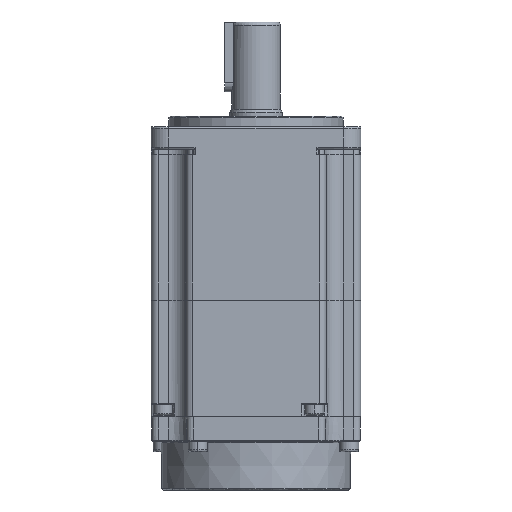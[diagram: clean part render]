
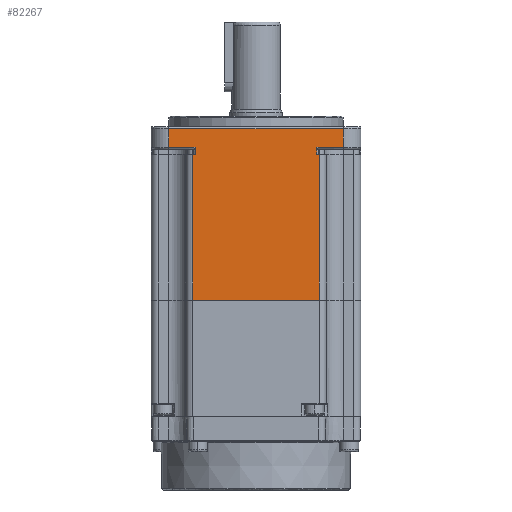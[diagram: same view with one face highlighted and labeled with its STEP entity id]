
A CAD part, front view. The second image highlights one B-rep face of the part: STEP entity #82267.
In plain terms, the highlighted planar face has unit normal (0, -1, 0).
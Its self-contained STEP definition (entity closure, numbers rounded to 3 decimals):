
#672 = EDGE_CURVE ( 'NONE', #30054, #5555, #87360, .T. ) ;
#1834 = VERTEX_POINT ( 'NONE', #33586 ) ;
#3203 = VECTOR ( 'NONE', #62945, 1000. ) ;
#4831 = VERTEX_POINT ( 'NONE', #35375 ) ;
#5555 = VERTEX_POINT ( 'NONE', #63554 ) ;
#6065 = LINE ( 'NONE', #89003, #20520 ) ;
#7981 = EDGE_CURVE ( 'NONE', #1834, #64529, #59865, .T. ) ;
#8506 = DIRECTION ( 'NONE',  ( 0., 0., -1. ) ) ;
#8824 = VERTEX_POINT ( 'NONE', #43203 ) ;
#9734 = ORIENTED_EDGE ( 'NONE', *, *, #22946, .T. ) ;
#10064 = VECTOR ( 'NONE', #49734, 1000. ) ;
#10823 = ORIENTED_EDGE ( 'NONE', *, *, #89529, .T. ) ;
#11792 = ORIENTED_EDGE ( 'NONE', *, *, #63777, .T. ) ;
#12023 = DIRECTION ( 'NONE',  ( 0., 0., -1. ) ) ;
#12599 = VERTEX_POINT ( 'NONE', #36615 ) ;
#12809 = DIRECTION ( 'NONE',  ( -1., 0., 0. ) ) ;
#13998 = CARTESIAN_POINT ( 'NONE',  ( 17.616, -39.646, 93.7 ) ) ;
#14286 = DIRECTION ( 'NONE',  ( 1., 0., 0. ) ) ;
#15681 = LINE ( 'NONE', #71082, #32322 ) ;
#16796 = ORIENTED_EDGE ( 'NONE', *, *, #56898, .T. ) ;
#17320 = ORIENTED_EDGE ( 'NONE', *, *, #48878, .T. ) ;
#17633 = VERTEX_POINT ( 'NONE', #48016 ) ;
#20520 = VECTOR ( 'NONE', #81813, 1000. ) ;
#22946 = EDGE_CURVE ( 'NONE', #17633, #49718, #56442, .T. ) ;
#25752 = LINE ( 'NONE', #65525, #80212 ) ;
#26354 = EDGE_CURVE ( 'NONE', #57824, #1834, #6065, .T. ) ;
#27933 = CARTESIAN_POINT ( 'NONE',  ( -18.584, -39.646, 51.9 ) ) ;
#28681 = CARTESIAN_POINT ( 'NONE',  ( -30.584, -39.646, 93.7 ) ) ;
#28968 = LINE ( 'NONE', #42082, #62326 ) ;
#30054 = VERTEX_POINT ( 'NONE', #30245 ) ;
#30245 = CARTESIAN_POINT ( 'NONE',  ( -25.584, -39.646, 95.7 ) ) ;
#32322 = VECTOR ( 'NONE', #14286, 1000. ) ;
#33586 = CARTESIAN_POINT ( 'NONE',  ( 17.016, -39.646, 93.7 ) ) ;
#33932 = ORIENTED_EDGE ( 'NONE', *, *, #36020, .T. ) ;
#35375 = CARTESIAN_POINT ( 'NONE',  ( -17.984, -39.646, 93.7 ) ) ;
#36020 = EDGE_CURVE ( 'NONE', #5555, #4831, #59561, .T. ) ;
#36615 = CARTESIAN_POINT ( 'NONE',  ( -18.584, -39.646, 93.7 ) ) ;
#37190 = CARTESIAN_POINT ( 'NONE',  ( -17.984, -39.646, 95.7 ) ) ;
#37197 = DIRECTION ( 'NONE',  ( 0., 0., 1. ) ) ;
#37490 = ORIENTED_EDGE ( 'NONE', *, *, #26354, .T. ) ;
#38463 = DIRECTION ( 'NONE',  ( 0., 0., 1. ) ) ;
#38914 = VECTOR ( 'NONE', #12023, 1000. ) ;
#39020 = ORIENTED_EDGE ( 'NONE', *, *, #672, .T. ) ;
#39163 = EDGE_CURVE ( 'NONE', #8824, #66699, #59720, .T. ) ;
#40661 = VECTOR ( 'NONE', #8506, 1000. ) ;
#42082 = CARTESIAN_POINT ( 'NONE',  ( -30.584, -39.646, 101.1 ) ) ;
#43203 = CARTESIAN_POINT ( 'NONE',  ( 17.616, -39.646, 51.9 ) ) ;
#47817 = FACE_OUTER_BOUND ( 'NONE', #83583, .T. ) ;
#48016 = CARTESIAN_POINT ( 'NONE',  ( 24.616, -39.646, 95.7 ) ) ;
#48140 = CARTESIAN_POINT ( 'NONE',  ( -30.584, -39.646, 102.1 ) ) ;
#48878 = EDGE_CURVE ( 'NONE', #8824, #57824, #75213, .T. ) ;
#48892 = CARTESIAN_POINT ( 'NONE',  ( 17.016, -39.646, 102.1 ) ) ;
#49718 = VERTEX_POINT ( 'NONE', #58124 ) ;
#49734 = DIRECTION ( 'NONE',  ( -1., 0., 0. ) ) ;
#55122 = VERTEX_POINT ( 'NONE', #55609 ) ;
#55299 = DIRECTION ( 'NONE',  ( 0., 1., 0. ) ) ;
#55609 = CARTESIAN_POINT ( 'NONE',  ( -25.584, -39.646, 101.1 ) ) ;
#56442 = LINE ( 'NONE', #67007, #75356 ) ;
#56898 = EDGE_CURVE ( 'NONE', #64529, #17633, #15681, .T. ) ;
#57241 = EDGE_CURVE ( 'NONE', #55122, #30054, #76705, .T. ) ;
#57449 = ORIENTED_EDGE ( 'NONE', *, *, #39163, .F. ) ;
#57824 = VERTEX_POINT ( 'NONE', #13998 ) ;
#58124 = CARTESIAN_POINT ( 'NONE',  ( 24.616, -39.646, 101.1 ) ) ;
#59406 = CARTESIAN_POINT ( 'NONE',  ( -30.584, -39.646, 51.9 ) ) ;
#59561 = LINE ( 'NONE', #72203, #40661 ) ;
#59720 = LINE ( 'NONE', #59406, #61949 ) ;
#59771 = DIRECTION ( 'NONE',  ( 1., 0., 0. ) ) ;
#59865 = LINE ( 'NONE', #48892, #3203 ) ;
#61949 = VECTOR ( 'NONE', #87702, 1000. ) ;
#62326 = VECTOR ( 'NONE', #77476, 1000. ) ;
#62945 = DIRECTION ( 'NONE',  ( 0., 0., 1. ) ) ;
#63554 = CARTESIAN_POINT ( 'NONE',  ( -17.984, -39.646, 95.7 ) ) ;
#63777 = EDGE_CURVE ( 'NONE', #4831, #12599, #64535, .T. ) ;
#64529 = VERTEX_POINT ( 'NONE', #67005 ) ;
#64535 = LINE ( 'NONE', #28681, #10064 ) ;
#65447 = CARTESIAN_POINT ( 'NONE',  ( 17.616, -39.646, 102.1 ) ) ;
#65525 = CARTESIAN_POINT ( 'NONE',  ( -18.584, -39.646, 102.1 ) ) ;
#66699 = VERTEX_POINT ( 'NONE', #27933 ) ;
#67005 = CARTESIAN_POINT ( 'NONE',  ( 17.016, -39.646, 95.7 ) ) ;
#67007 = CARTESIAN_POINT ( 'NONE',  ( 24.616, -39.646, 102.1 ) ) ;
#67552 = ORIENTED_EDGE ( 'NONE', *, *, #7981, .T. ) ;
#68393 = EDGE_CURVE ( 'NONE', #49718, #55122, #28968, .T. ) ;
#71082 = CARTESIAN_POINT ( 'NONE',  ( 24.616, -39.646, 95.7 ) ) ;
#72203 = CARTESIAN_POINT ( 'NONE',  ( -17.984, -39.646, 102.1 ) ) ;
#72678 = DIRECTION ( 'NONE',  ( 0., 0., -1. ) ) ;
#75213 = LINE ( 'NONE', #65447, #91929 ) ;
#75356 = VECTOR ( 'NONE', #38463, 1000. ) ;
#75676 = CARTESIAN_POINT ( 'NONE',  ( -25.584, -39.646, 102.1 ) ) ;
#76264 = ORIENTED_EDGE ( 'NONE', *, *, #68393, .T. ) ;
#76464 = PLANE ( 'NONE',  #79605 ) ;
#76705 = LINE ( 'NONE', #75676, #38914 ) ;
#77476 = DIRECTION ( 'NONE',  ( -1., 0., 0. ) ) ;
#79605 = AXIS2_PLACEMENT_3D ( 'NONE', #48140, #55299, #12809 ) ;
#80212 = VECTOR ( 'NONE', #72678, 1000. ) ;
#81813 = DIRECTION ( 'NONE',  ( -1., 0., 0. ) ) ;
#82267 = ADVANCED_FACE ( 'NONE', ( #47817 ), #76464, .F. ) ;
#82885 = VECTOR ( 'NONE', #59771, 1000. ) ;
#83583 = EDGE_LOOP ( 'NONE', ( #57449, #17320, #37490, #67552, #16796, #9734, #76264, #86336, #39020, #33932, #11792, #10823 ) ) ;
#86336 = ORIENTED_EDGE ( 'NONE', *, *, #57241, .T. ) ;
#87360 = LINE ( 'NONE', #37190, #82885 ) ;
#87702 = DIRECTION ( 'NONE',  ( -1., 0., 0. ) ) ;
#89003 = CARTESIAN_POINT ( 'NONE',  ( -30.584, -39.646, 93.7 ) ) ;
#89529 = EDGE_CURVE ( 'NONE', #12599, #66699, #25752, .T. ) ;
#91929 = VECTOR ( 'NONE', #37197, 1000. ) ;
